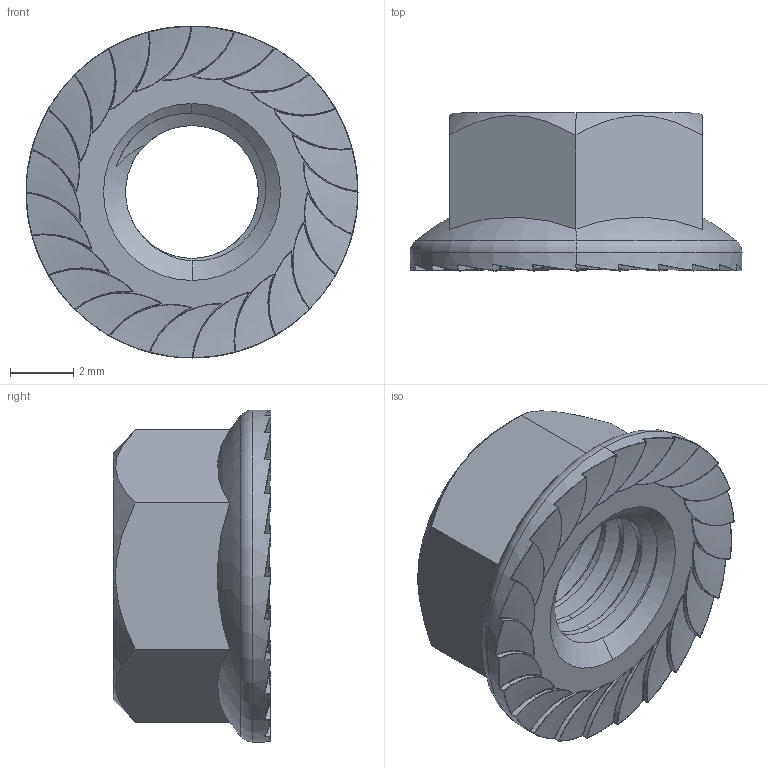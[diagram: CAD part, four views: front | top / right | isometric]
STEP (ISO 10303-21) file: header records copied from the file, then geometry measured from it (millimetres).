
FILE_DESCRIPTION (( 'STEP AP203' ), '1' );
FILE_NAME ('TANLD-304-M5.STEP', '2026-08-25T06:47:25', ( '' ), ( '' ), 'SwSTEP 2.0', 'SolidWorks 2020', '' );
FILE_SCHEMA (( 'CONFIG_CONTROL_DESIGN' ));
Length unit declared in the file: millimetre
Products named in the file (1): TANLD-304-M5
Bounding box: 10.5 x 4.99 x 10.5 mm (x, y, z)
Volume: 217.3 mm3; surface area: 368.2 mm2
Topology: 1 solids, 1 shells, 215 faces, 654 edges, 417 vertices
Faces by surface type: cylinder 97, bspline 75, sphere 25, plane 8, cone 6, torus 4
Entity records: 12352 total; most frequent: CARTESIAN_POINT 7620, ORIENTED_EDGE 1158, DIRECTION 776, EDGE_CURVE 579, VERTEX_POINT 367, AXIS2_PLACEMENT_3D 346, B_SPLINE_CURVE_WITH_KNOTS 266, EDGE_LOOP 216
